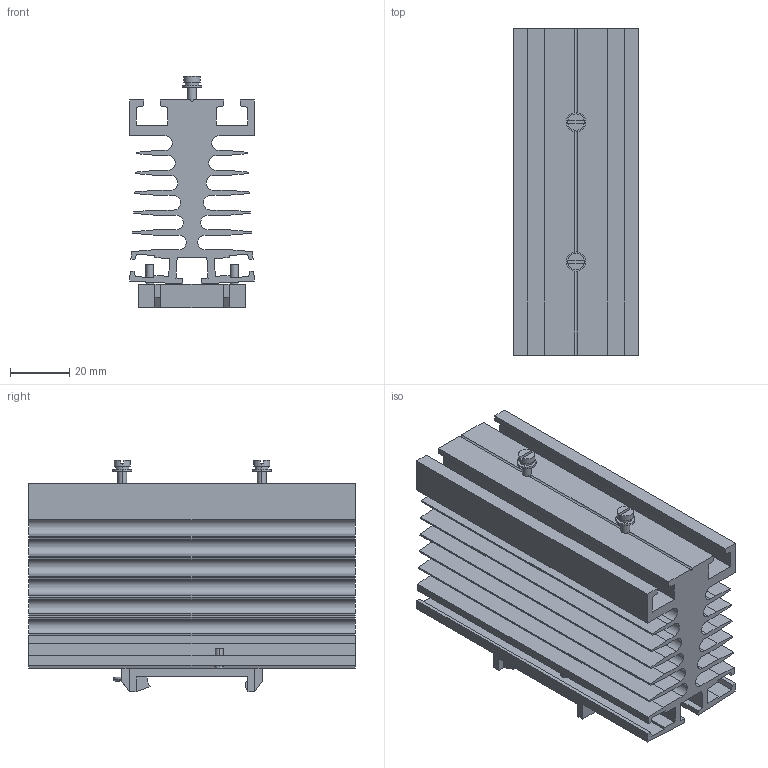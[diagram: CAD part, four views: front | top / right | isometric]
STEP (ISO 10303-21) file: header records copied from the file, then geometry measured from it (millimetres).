
FILE_DESCRIPTION (( 'STEP AP203' ), '1' );
FILE_NAME ('TSZC-DT3.STEP', '2019-07-05T17:27:12', ( '' ), ( '' ), 'SwSTEP 2.0', 'SolidWorks 2012', '' );
FILE_SCHEMA (( 'CONFIG_CONTROL_DESIGN' ));
Length unit declared in the file: millimetre
Products named in the file (1): TSZC-DT3
Bounding box: 42 x 110 x 78 mm (x, y, z)
Volume: 129412.3 mm3; surface area: 82008.7 mm2
Topology: 2 solids, 2 shells, 303 faces, 812 edges, 526 vertices
Faces by surface type: plane 222, cylinder 69, torus 12
Entity records: 9459 total; most frequent: CARTESIAN_POINT 1738, ORIENTED_EDGE 1624, DIRECTION 1538, EDGE_CURVE 812, VECTOR 646, LINE 646, VERTEX_POINT 526, AXIS2_PLACEMENT_3D 446
